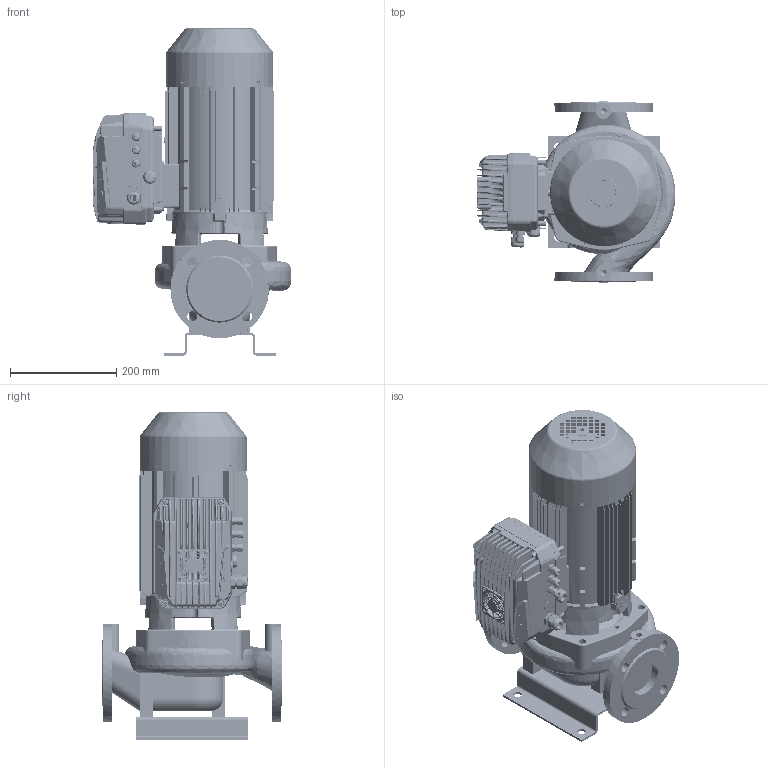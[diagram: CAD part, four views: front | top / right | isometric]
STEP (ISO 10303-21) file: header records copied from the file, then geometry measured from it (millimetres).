
FILE_DESCRIPTION(('STEP AP214'),'1');
FILE_NAME('export.stp','2022-08-29T10:51:37',(' '),(' '),'Spatial InterOp 3D',' ',' ');
FILE_SCHEMA(('AUTOMOTIVE_DESIGN { 1 0 10303 214 1 1 1 1 }'));
Length unit declared in the file: millimetre
Products named in the file (45): W_L65B2_XX_KP100; V_TLL65AB80A1102; V_PPL65AB; V_JALKA35973; V_AdapMida205_407; 210588; DIN_7985-M5X8; 160027; 160005; V_MKP100-1_F19; 160141; 160137; 160138; 160139; 160140; Koura_Ale_M5; Plug_Blind_M20; Sealing_Plug_M20; DIN_7985-M5X12; 160059___; 160060___; 160136; MIDA_180deg; BASE_MIDA_NASTEC_89; 3005020100_AF0_157; PRT0001; PRT0002; PRT0003; PRT0005; PRT0006; PRT0007; V4-25--_-_U7687_PZ_AF0_5; V4-25--_-_U7687_PZ_AF1_5; V4-25--_-_U7687_PZ_AF2_5; V4-25--_-_U7687_PZ_AF3_5; V5-30--_-_U7687_PZ_AF0_5; V5-30--_-_U7687_PZ_AF1_5; V5-30--_-_U7687_PZ_AF2_5; V5-30--_-_U7687_PZ_5; 2001300200_32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
Assembly tree (48 placements, depth 4):
  W_L65B2_XX_KP100
    V_TLL65AB80A1102
    V_PPL65AB
    V_JALKA35973
    V_AdapMida205_407
      210588
      DIN_7985-M5X8  x2
    V_MKP100-1_F19
      160027
        160005
      160141
        160137
        160138
        160139
        160140
        Koura_Ale_M5
        Plug_Blind_M20
        Sealing_Plug_M20
        DIN_7985-M5X8
        DIN_7985-M5X12  x4
      160059___
      160060___
      160136
    Mida205
      MIDA_180deg
        BASE_MIDA_NASTEC_89
        3005020100_AF0_157
        PRT0001
        PRT0002
        PRT0003
        PRT0005
        PRT0006
        PRT0007
        V4-25--_-_U7687_PZ_AF0_5
        V4-25--_-_U7687_PZ_AF1_5
        V4-25--_-_U7687_PZ_AF2_5
        V4-25--_-_U7687_PZ_AF3_5
        V5-30--_-_U7687_PZ_AF0_5
        V5-30--_-_U7687_PZ_AF1_5
        V5-30--_-_U7687_PZ_AF2_5
        V5-30--_-_U7687_PZ_5
        2001300200_32
        TASTIERA_MIDA_2_44
        ETICHETTA_MIDA_9
        TAPPO_PRESSACAVO_M20_5
Bounding box: 374 x 340 x 615 mm (x, y, z)
Volume: 7575651 mm3; surface area: 2118185.3 mm2
Topology: 42 solids, 43 shells, 6259 faces, 16281 edges, 10110 vertices
Faces by surface type: plane 2287, cylinder 1941, bspline 1360, cone 404, torus 252, sphere 15
Entity records: 318487 total; most frequent: CARTESIAN_POINT 148160, ORIENTED_EDGE 31948, DIRECTION 23068, EDGE_CURVE 15978, VERTEX_POINT 9983, AXIS2_PLACEMENT_3D 8330, EDGE_LOOP 6692, LINE 6408
